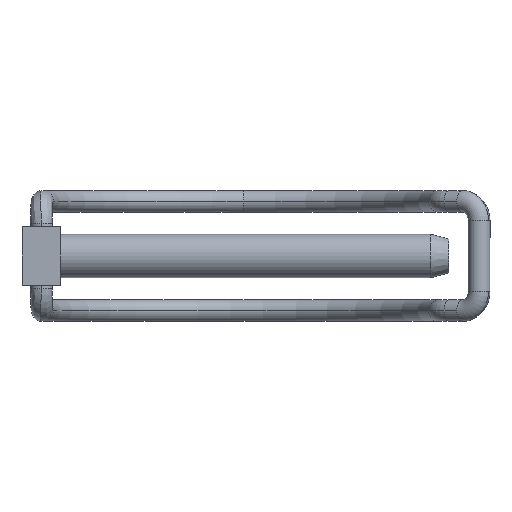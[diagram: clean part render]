
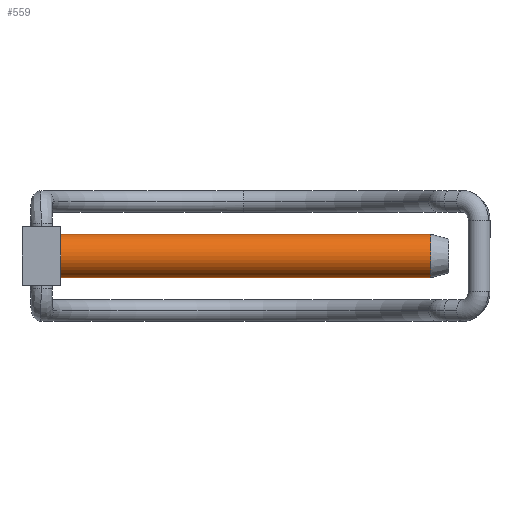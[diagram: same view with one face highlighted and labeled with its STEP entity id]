
A CAD part, left-side view. The second image highlights one B-rep face of the part: STEP entity #559.
In plain terms, the highlighted cylindrical face has radius 2.25 mm (diameter 4.5 mm), a partial arc.
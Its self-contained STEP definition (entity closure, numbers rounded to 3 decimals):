
#17 = VECTOR ( 'NONE', #1404, 1000. ) ;
#25 = CARTESIAN_POINT ( 'NONE',  ( 0., 0., 2.25 ) ) ;
#46 = VERTEX_POINT ( 'NONE', #25 ) ;
#55 = ORIENTED_EDGE ( 'NONE', *, *, #787, .F. ) ;
#316 = DIRECTION ( 'NONE',  ( 0., 0., 1. ) ) ;
#320 = VERTEX_POINT ( 'NONE', #1132 ) ;
#332 = CARTESIAN_POINT ( 'NONE',  ( 0., -40., 0. ) ) ;
#341 = FACE_OUTER_BOUND ( 'NONE', #822, .T. ) ;
#559 = ADVANCED_FACE ( 'NONE', ( #341 ), #769, .T. ) ;
#588 = CARTESIAN_POINT ( 'NONE',  ( 0., 0., -2.25 ) ) ;
#616 = DIRECTION ( 'NONE',  ( 0., 1., 0. ) ) ;
#759 = CARTESIAN_POINT ( 'NONE',  ( 0., -40., -2.25 ) ) ;
#769 = CYLINDRICAL_SURFACE ( 'NONE', #1826, 2.25 ) ;
#787 = EDGE_CURVE ( 'NONE', #1176, #46, #1802, .T. ) ;
#804 = ORIENTED_EDGE ( 'NONE', *, *, #1530, .F. ) ;
#822 = EDGE_LOOP ( 'NONE', ( #804, #885, #1140, #55 ) ) ;
#885 = ORIENTED_EDGE ( 'NONE', *, *, #1171, .T. ) ;
#961 = AXIS2_PLACEMENT_3D ( 'NONE', #1074, #1536, #1650 ) ;
#1031 = DIRECTION ( 'NONE',  ( 0., 1., 0. ) ) ;
#1072 = CARTESIAN_POINT ( 'NONE',  ( 0., -38.134, -2.25 ) ) ;
#1074 = CARTESIAN_POINT ( 'NONE',  ( 0., 0., 0. ) ) ;
#1077 = DIRECTION ( 'NONE',  ( 0., 1., 0. ) ) ;
#1132 = CARTESIAN_POINT ( 'NONE',  ( 0., -38.134, 2.25 ) ) ;
#1140 = ORIENTED_EDGE ( 'NONE', *, *, #1313, .T. ) ;
#1171 = EDGE_CURVE ( 'NONE', #1299, #320, #1211, .T. ) ;
#1176 = VERTEX_POINT ( 'NONE', #588 ) ;
#1186 = DIRECTION ( 'NONE',  ( 0., 0., 1. ) ) ;
#1192 = LINE ( 'NONE', #759, #1817 ) ;
#1194 = CARTESIAN_POINT ( 'NONE',  ( 0., -38.134, 0. ) ) ;
#1211 = CIRCLE ( 'NONE', #1477, 2.25 ) ;
#1279 = CARTESIAN_POINT ( 'NONE',  ( 0., -40., 2.25 ) ) ;
#1299 = VERTEX_POINT ( 'NONE', #1072 ) ;
#1313 = EDGE_CURVE ( 'NONE', #320, #46, #1422, .T. ) ;
#1404 = DIRECTION ( 'NONE',  ( 0., 1., 0. ) ) ;
#1422 = LINE ( 'NONE', #1279, #17 ) ;
#1477 = AXIS2_PLACEMENT_3D ( 'NONE', #1194, #616, #1186 ) ;
#1530 = EDGE_CURVE ( 'NONE', #1299, #1176, #1192, .T. ) ;
#1536 = DIRECTION ( 'NONE',  ( 0., 1., 0. ) ) ;
#1650 = DIRECTION ( 'NONE',  ( 0., 0., 1. ) ) ;
#1802 = CIRCLE ( 'NONE', #961, 2.25 ) ;
#1817 = VECTOR ( 'NONE', #1077, 1000. ) ;
#1826 = AXIS2_PLACEMENT_3D ( 'NONE', #332, #1031, #316 ) ;
